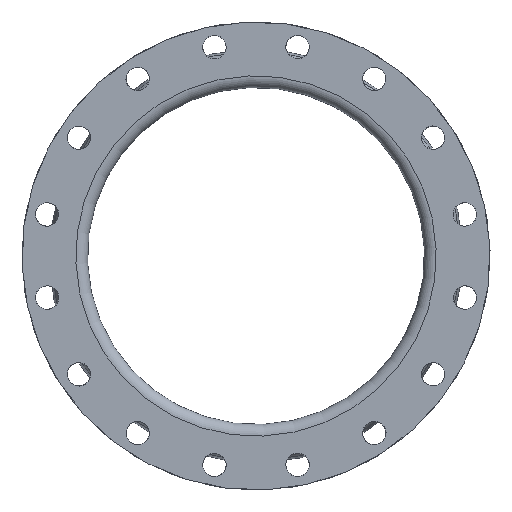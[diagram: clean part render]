
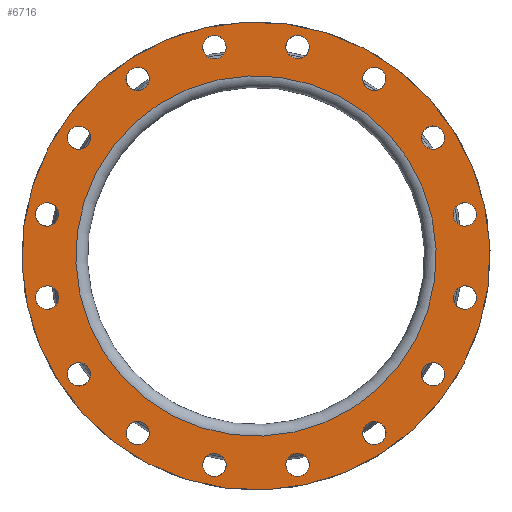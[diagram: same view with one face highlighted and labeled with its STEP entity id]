
A CAD part, left-side view. The second image highlights one B-rep face of the part: STEP entity #6716.
In plain terms, the highlighted planar face has unit normal (-1, 0, 0).
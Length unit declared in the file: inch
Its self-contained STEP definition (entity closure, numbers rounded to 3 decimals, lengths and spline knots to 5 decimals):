
#6209=CARTESIAN_POINT('',(-6.,9.69714,-5.74219));
#6210=VERTEX_POINT('',#6209);
#6211=CARTESIAN_POINT('',(-6.,9.45797,-6.31961));
#6212=DIRECTION('',(1.,0.0,0.0));
#6213=DIRECTION('',(0.0,-0.383,-0.924));
#6214=AXIS2_PLACEMENT_3D('',#6211,#6212,#6213);
#6215=CIRCLE('',#6214,0.625);
#6216=EDGE_CURVE('',#6210,#6210,#6215,.T.);
#6237=CARTESIAN_POINT('',(-6.,6.76155,-9.01603));
#6238=VERTEX_POINT('',#6237);
#6239=CARTESIAN_POINT('',(-6.,6.31961,-9.45797));
#6240=DIRECTION('',(1.,0.0,0.0));
#6241=DIRECTION('',(0.0,-0.707,-0.707));
#6242=AXIS2_PLACEMENT_3D('',#6239,#6240,#6241);
#6243=CIRCLE('',#6242,0.625);
#6244=EDGE_CURVE('',#6238,#6238,#6243,.T.);
#6265=CARTESIAN_POINT('',(-6.,2.79658,-10.91726));
#6266=VERTEX_POINT('',#6265);
#6267=CARTESIAN_POINT('',(-6.,2.21915,-11.15643));
#6268=DIRECTION('',(1.,0.0,0.0));
#6269=DIRECTION('',(0.0,-0.924,-0.383));
#6270=AXIS2_PLACEMENT_3D('',#6267,#6268,#6269);
#6271=CIRCLE('',#6270,0.625);
#6272=EDGE_CURVE('',#6266,#6266,#6271,.T.);
#6293=CARTESIAN_POINT('',(-6.,-1.59415,-11.15643));
#6294=VERTEX_POINT('',#6293);
#6295=CARTESIAN_POINT('',(-6.,-2.21915,-11.15643));
#6296=DIRECTION('',(1.0,0.0,0.0));
#6297=DIRECTION('',(0.0,-1.0,0.0));
#6298=AXIS2_PLACEMENT_3D('',#6295,#6296,#6297);
#6299=CIRCLE('',#6298,0.625);
#6300=EDGE_CURVE('',#6294,#6294,#6299,.T.);
#6321=CARTESIAN_POINT('',(-6.,-5.74219,-9.69714));
#6322=VERTEX_POINT('',#6321);
#6323=CARTESIAN_POINT('',(-6.,-6.31961,-9.45797));
#6324=DIRECTION('',(1.,0.0,0.0));
#6325=DIRECTION('',(0.0,-0.924,0.383));
#6326=AXIS2_PLACEMENT_3D('',#6323,#6324,#6325);
#6327=CIRCLE('',#6326,0.625);
#6328=EDGE_CURVE('',#6322,#6322,#6327,.T.);
#6349=CARTESIAN_POINT('',(-6.,-9.01603,-6.76155));
#6350=VERTEX_POINT('',#6349);
#6351=CARTESIAN_POINT('',(-6.,-9.45797,-6.31961));
#6352=DIRECTION('',(1.0,0.0,0.0));
#6353=DIRECTION('',(0.0,-0.707,0.707));
#6354=AXIS2_PLACEMENT_3D('',#6351,#6352,#6353);
#6355=CIRCLE('',#6354,0.625);
#6356=EDGE_CURVE('',#6350,#6350,#6355,.T.);
#6377=CARTESIAN_POINT('',(-6.,-10.91726,-2.79658));
#6378=VERTEX_POINT('',#6377);
#6379=CARTESIAN_POINT('',(-6.,-11.15643,-2.21915));
#6380=DIRECTION('',(1.0,0.0,0.0));
#6381=DIRECTION('',(0.0,-0.383,0.924));
#6382=AXIS2_PLACEMENT_3D('',#6379,#6380,#6381);
#6383=CIRCLE('',#6382,0.625);
#6384=EDGE_CURVE('',#6378,#6378,#6383,.T.);
#6405=CARTESIAN_POINT('',(-6.,-11.15643,1.59415));
#6406=VERTEX_POINT('',#6405);
#6407=CARTESIAN_POINT('',(-6.,-11.15643,2.21915));
#6408=DIRECTION('',(1.0,0.0,0.0));
#6409=DIRECTION('',(0.0,0.0,1.0));
#6410=AXIS2_PLACEMENT_3D('',#6407,#6408,#6409);
#6411=CIRCLE('',#6410,0.625);
#6412=EDGE_CURVE('',#6406,#6406,#6411,.T.);
#6433=CARTESIAN_POINT('',(-6.,-9.69714,5.74219));
#6434=VERTEX_POINT('',#6433);
#6435=CARTESIAN_POINT('',(-6.,-9.45797,6.31961));
#6436=DIRECTION('',(1.0,0.0,0.0));
#6437=DIRECTION('',(0.0,0.383,0.924));
#6438=AXIS2_PLACEMENT_3D('',#6435,#6436,#6437);
#6439=CIRCLE('',#6438,0.625);
#6440=EDGE_CURVE('',#6434,#6434,#6439,.T.);
#6461=CARTESIAN_POINT('',(-6.,-6.76155,9.01603));
#6462=VERTEX_POINT('',#6461);
#6463=CARTESIAN_POINT('',(-6.,-6.31961,9.45797));
#6464=DIRECTION('',(1.0,0.0,0.0));
#6465=DIRECTION('',(0.0,0.707,0.707));
#6466=AXIS2_PLACEMENT_3D('',#6463,#6464,#6465);
#6467=CIRCLE('',#6466,0.625);
#6468=EDGE_CURVE('',#6462,#6462,#6467,.T.);
#6489=CARTESIAN_POINT('',(-6.,-2.79658,10.91726));
#6490=VERTEX_POINT('',#6489);
#6491=CARTESIAN_POINT('',(-6.,-2.21915,11.15643));
#6492=DIRECTION('',(1.,0.0,0.0));
#6493=DIRECTION('',(0.0,0.924,0.383));
#6494=AXIS2_PLACEMENT_3D('',#6491,#6492,#6493);
#6495=CIRCLE('',#6494,0.625);
#6496=EDGE_CURVE('',#6490,#6490,#6495,.T.);
#6517=CARTESIAN_POINT('',(-6.,1.59415,11.15643));
#6518=VERTEX_POINT('',#6517);
#6519=CARTESIAN_POINT('',(-6.,2.21915,11.15643));
#6520=DIRECTION('',(1.0,0.0,0.0));
#6521=DIRECTION('',(0.0,1.0,0.0));
#6522=AXIS2_PLACEMENT_3D('',#6519,#6520,#6521);
#6523=CIRCLE('',#6522,0.625);
#6524=EDGE_CURVE('',#6518,#6518,#6523,.T.);
#6545=CARTESIAN_POINT('',(-6.,5.74219,9.69714));
#6546=VERTEX_POINT('',#6545);
#6547=CARTESIAN_POINT('',(-6.,6.31961,9.45797));
#6548=DIRECTION('',(1.,0.0,0.0));
#6549=DIRECTION('',(0.0,0.924,-0.383));
#6550=AXIS2_PLACEMENT_3D('',#6547,#6548,#6549);
#6551=CIRCLE('',#6550,0.625);
#6552=EDGE_CURVE('',#6546,#6546,#6551,.T.);
#6573=CARTESIAN_POINT('',(-6.,9.01603,6.76155));
#6574=VERTEX_POINT('',#6573);
#6575=CARTESIAN_POINT('',(-6.,9.45797,6.31961));
#6576=DIRECTION('',(1.,0.0,0.0));
#6577=DIRECTION('',(0.0,0.707,-0.707));
#6578=AXIS2_PLACEMENT_3D('',#6575,#6576,#6577);
#6579=CIRCLE('',#6578,0.625);
#6580=EDGE_CURVE('',#6574,#6574,#6579,.T.);
#6601=CARTESIAN_POINT('',(-6.,10.91726,2.79658));
#6602=VERTEX_POINT('',#6601);
#6603=CARTESIAN_POINT('',(-6.,11.15643,2.21915));
#6604=DIRECTION('',(1.0,0.0,0.0));
#6605=DIRECTION('',(0.0,0.383,-0.924));
#6606=AXIS2_PLACEMENT_3D('',#6603,#6604,#6605);
#6607=CIRCLE('',#6606,0.625);
#6608=EDGE_CURVE('',#6602,#6602,#6607,.T.);
#6629=CARTESIAN_POINT('',(-6.,11.15643,-1.59415));
#6630=VERTEX_POINT('',#6629);
#6631=CARTESIAN_POINT('',(-6.,11.15643,-2.21915));
#6632=DIRECTION('',(1.0,0.0,0.0));
#6633=DIRECTION('',(0.0,0.0,-1.0));
#6634=AXIS2_PLACEMENT_3D('',#6631,#6632,#6633);
#6635=CIRCLE('',#6634,0.625);
#6636=EDGE_CURVE('',#6630,#6630,#6635,.T.);
#6641=CARTESIAN_POINT('',(-6.,12.4375,0.0));
#6642=DIRECTION('',(-1.0,0.0,0.0));
#6643=DIRECTION('',(0.0,0.0,1.0));
#6644=AXIS2_PLACEMENT_3D('',#6641,#6642,#6643);
#6645=PLANE('',#6644);
#6646=CARTESIAN_POINT('',(-6.,12.5,0.0));
#6647=VERTEX_POINT('',#6646);
#6648=CARTESIAN_POINT('',(-6.,0.,0.0));
#6649=DIRECTION('',(1.0,0.0,0.0));
#6650=DIRECTION('',(0.0,1.0,0.0));
#6651=AXIS2_PLACEMENT_3D('',#6648,#6649,#6650);
#6652=CIRCLE('',#6651,12.5);
#6653=EDGE_CURVE('',#6647,#6647,#6652,.T.);
#6654=ORIENTED_EDGE('',*,*,#6653,.F.);
#6655=EDGE_LOOP('',(#6654));
#6656=FACE_OUTER_BOUND('',#6655,.T.);
#6657=ORIENTED_EDGE('',*,*,#6216,.T.);
#6658=EDGE_LOOP('',(#6657));
#6659=FACE_BOUND('',#6658,.T.);
#6660=ORIENTED_EDGE('',*,*,#6244,.T.);
#6661=EDGE_LOOP('',(#6660));
#6662=FACE_BOUND('',#6661,.T.);
#6663=ORIENTED_EDGE('',*,*,#6272,.T.);
#6664=EDGE_LOOP('',(#6663));
#6665=FACE_BOUND('',#6664,.T.);
#6666=ORIENTED_EDGE('',*,*,#6300,.T.);
#6667=EDGE_LOOP('',(#6666));
#6668=FACE_BOUND('',#6667,.T.);
#6669=ORIENTED_EDGE('',*,*,#6328,.T.);
#6670=EDGE_LOOP('',(#6669));
#6671=FACE_BOUND('',#6670,.T.);
#6672=ORIENTED_EDGE('',*,*,#6356,.T.);
#6673=EDGE_LOOP('',(#6672));
#6674=FACE_BOUND('',#6673,.T.);
#6675=ORIENTED_EDGE('',*,*,#6384,.T.);
#6676=EDGE_LOOP('',(#6675));
#6677=FACE_BOUND('',#6676,.T.);
#6678=ORIENTED_EDGE('',*,*,#6412,.T.);
#6679=EDGE_LOOP('',(#6678));
#6680=FACE_BOUND('',#6679,.T.);
#6681=ORIENTED_EDGE('',*,*,#6440,.T.);
#6682=EDGE_LOOP('',(#6681));
#6683=FACE_BOUND('',#6682,.T.);
#6684=ORIENTED_EDGE('',*,*,#6468,.T.);
#6685=EDGE_LOOP('',(#6684));
#6686=FACE_BOUND('',#6685,.T.);
#6687=ORIENTED_EDGE('',*,*,#6496,.T.);
#6688=EDGE_LOOP('',(#6687));
#6689=FACE_BOUND('',#6688,.T.);
#6690=ORIENTED_EDGE('',*,*,#6524,.T.);
#6691=EDGE_LOOP('',(#6690));
#6692=FACE_BOUND('',#6691,.T.);
#6693=ORIENTED_EDGE('',*,*,#6552,.T.);
#6694=EDGE_LOOP('',(#6693));
#6695=FACE_BOUND('',#6694,.T.);
#6696=ORIENTED_EDGE('',*,*,#6580,.T.);
#6697=EDGE_LOOP('',(#6696));
#6698=FACE_BOUND('',#6697,.T.);
#6699=ORIENTED_EDGE('',*,*,#6608,.T.);
#6700=EDGE_LOOP('',(#6699));
#6701=FACE_BOUND('',#6700,.T.);
#6702=ORIENTED_EDGE('',*,*,#6636,.T.);
#6703=EDGE_LOOP('',(#6702));
#6704=FACE_BOUND('',#6703,.T.);
#6705=CARTESIAN_POINT('',(-6.,9.625,0.0));
#6706=VERTEX_POINT('',#6705);
#6707=CARTESIAN_POINT('',(-6.,0.,0.0));
#6708=DIRECTION('',(1.0,0.0,0.0));
#6709=DIRECTION('',(0.0,1.0,0.0));
#6710=AXIS2_PLACEMENT_3D('',#6707,#6708,#6709);
#6711=CIRCLE('',#6710,9.625);
#6712=EDGE_CURVE('',#6706,#6706,#6711,.T.);
#6713=ORIENTED_EDGE('',*,*,#6712,.T.);
#6714=EDGE_LOOP('',(#6713));
#6715=FACE_BOUND('',#6714,.T.);
#6716=ADVANCED_FACE('',(#6656,#6659,#6662,#6665,#6668,#6671,#6674,#6677,#6680,#6683,#6686,#6689,#6692,#6695,#6698,#6701,#6704,#6715),#6645,.T.);
